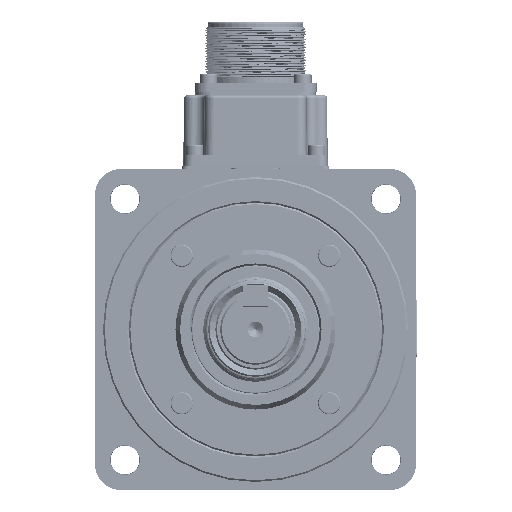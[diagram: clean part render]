
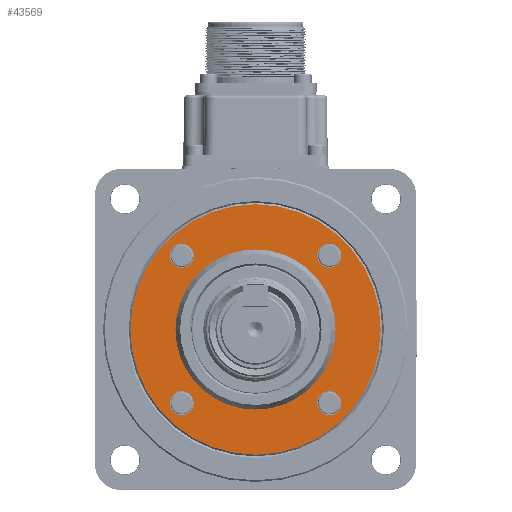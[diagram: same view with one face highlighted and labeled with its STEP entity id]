
A CAD part, left-side view. The second image highlights one B-rep face of the part: STEP entity #43569.
In plain terms, the highlighted planar face has unit normal (-1, 0, 0) as drawn and (0, -1, 0) by its records, which use the part's own axes.
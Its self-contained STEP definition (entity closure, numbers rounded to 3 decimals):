
#10248=PLANE('',#47663);
#21232=ORIENTED_EDGE('',*,*,#27423,.T.);
#21233=ORIENTED_EDGE('',*,*,#27424,.T.);
#21234=ORIENTED_EDGE('',*,*,#27425,.T.);
#21235=ORIENTED_EDGE('',*,*,#27426,.T.);
#21236=ORIENTED_EDGE('',*,*,#27427,.T.);
#21237=ORIENTED_EDGE('',*,*,#27422,.F.);
#27422=EDGE_CURVE('',#31618,#31618,#33303,.T.);
#27423=EDGE_CURVE('',#31619,#31619,#33304,.T.);
#27424=EDGE_CURVE('',#31620,#31620,#33305,.F.);
#27425=EDGE_CURVE('',#31621,#31621,#33306,.F.);
#27426=EDGE_CURVE('',#31622,#31622,#33307,.F.);
#27427=EDGE_CURVE('',#31623,#31623,#33308,.F.);
#31618=VERTEX_POINT('',#91671);
#31619=VERTEX_POINT('',#91674);
#31620=VERTEX_POINT('',#91676);
#31621=VERTEX_POINT('',#91678);
#31622=VERTEX_POINT('',#91680);
#31623=VERTEX_POINT('',#91682);
#33303=CIRCLE('',#47662,24.943);
#33304=CIRCLE('',#47664,39.);
#33305=CIRCLE('',#47665,3.75);
#33306=CIRCLE('',#47666,3.75);
#33307=CIRCLE('',#47667,3.75);
#33308=CIRCLE('',#47668,3.75);
#36673=EDGE_LOOP('',(#21232));
#36674=EDGE_LOOP('',(#21233));
#36675=EDGE_LOOP('',(#21234));
#36676=EDGE_LOOP('',(#21235));
#36677=EDGE_LOOP('',(#21236));
#36678=EDGE_LOOP('',(#21237));
#40243=FACE_BOUND('',#36673,.T.);
#40244=FACE_BOUND('',#36674,.T.);
#40245=FACE_BOUND('',#36675,.T.);
#40246=FACE_BOUND('',#36676,.T.);
#40247=FACE_BOUND('',#36677,.T.);
#40248=FACE_BOUND('',#36678,.T.);
#43569=ADVANCED_FACE('',(#40243,#40244,#40245,#40246,#40247,#40248),#10248,
 .T.);
#47662=AXIS2_PLACEMENT_3D('',#91670,#58656,#58657);
#47663=AXIS2_PLACEMENT_3D('',#91672,#58658,#58659);
#47664=AXIS2_PLACEMENT_3D('',#91673,#58660,#58661);
#47665=AXIS2_PLACEMENT_3D('',#91675,#58662,#58663);
#47666=AXIS2_PLACEMENT_3D('',#91677,#58664,#58665);
#47667=AXIS2_PLACEMENT_3D('',#91679,#58666,#58667);
#47668=AXIS2_PLACEMENT_3D('',#91681,#58668,#58669);
#58656=DIRECTION('',(0.,-1.,0.));
#58657=DIRECTION('',(0.,0.,-1.));
#58658=DIRECTION('',(0.,-1.,0.));
#58659=DIRECTION('',(0.,0.,-1.));
#58660=DIRECTION('',(0.,-1.,0.));
#58661=DIRECTION('',(0.,0.,-1.));
#58662=DIRECTION('',(0.,-1.,0.));
#58663=DIRECTION('',(0.,0.,-1.));
#58664=DIRECTION('',(0.,-1.,0.));
#58665=DIRECTION('',(0.,0.,-1.));
#58666=DIRECTION('',(0.,-1.,0.));
#58667=DIRECTION('',(0.,0.,-1.));
#58668=DIRECTION('',(0.,-1.,0.));
#58669=DIRECTION('',(0.,0.,-1.));
#91670=CARTESIAN_POINT('',(0.,0.5,0.));
#91671=CARTESIAN_POINT('',(0.,0.5,-24.943));
#91672=CARTESIAN_POINT('',(0.,0.5,39.5));
#91673=CARTESIAN_POINT('',(0.,0.5,0.));
#91674=CARTESIAN_POINT('',(0.,0.5,-39.));
#91675=CARTESIAN_POINT('',(-22.981,0.5,22.981));
#91676=CARTESIAN_POINT('',(-22.981,0.5,19.231));
#91677=CARTESIAN_POINT('',(22.981,0.5,22.981));
#91678=CARTESIAN_POINT('',(22.981,0.5,19.231));
#91679=CARTESIAN_POINT('',(22.981,0.5,-22.981));
#91680=CARTESIAN_POINT('',(22.981,0.5,-26.731));
#91681=CARTESIAN_POINT('',(-22.981,0.5,-22.981));
#91682=CARTESIAN_POINT('',(-22.981,0.5,-26.731));
